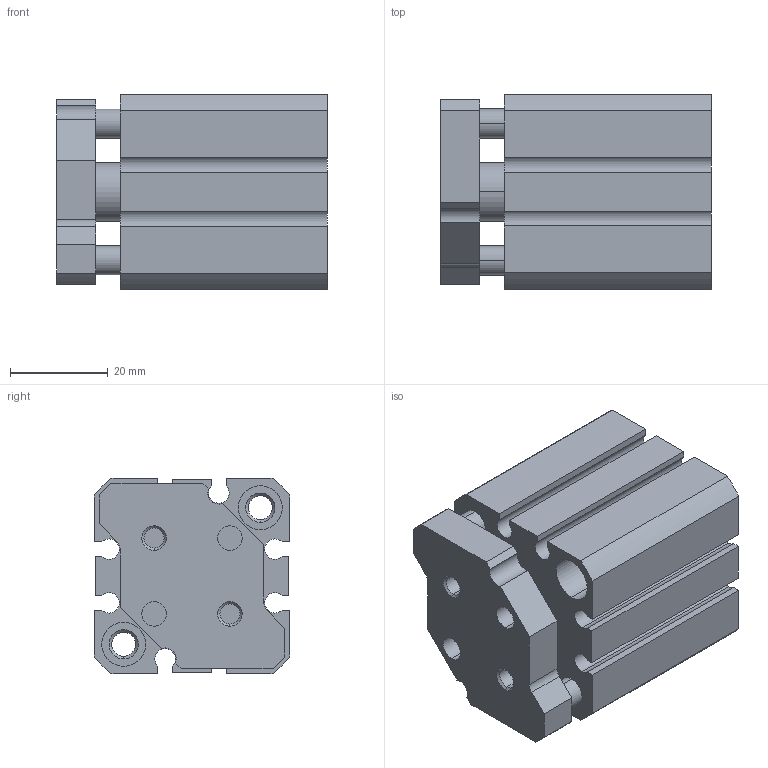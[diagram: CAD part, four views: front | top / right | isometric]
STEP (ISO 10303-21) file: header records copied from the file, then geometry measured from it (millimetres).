
FILE_DESCRIPTION (( 'STEP AP203' ), '1' );
FILE_NAME ('CCMG25-10.STEP', '2020-04-01T18:21:02', ( '' ), ( '' ), 'SwSTEP 2.0', 'SolidWorks 2019', '' );
FILE_SCHEMA (( 'CONFIG_CONTROL_DESIGN' ));
Length unit declared in the file: millimetre
Products named in the file (1): CCMG25-10
Bounding box: 55.5 x 40 x 40 mm (x, y, z)
Volume: 62940.5 mm3; surface area: 25171.3 mm2
Topology: 2 solids, 2 shells, 149 faces, 375 edges, 240 vertices
Faces by surface type: cylinder 69, plane 56, cone 24
Entity records: 4566 total; most frequent: DIRECTION 829, CARTESIAN_POINT 761, ORIENTED_EDGE 742, EDGE_CURVE 371, AXIS2_PLACEMENT_3D 308, VERTEX_POINT 240, LINE 213, VECTOR 213
